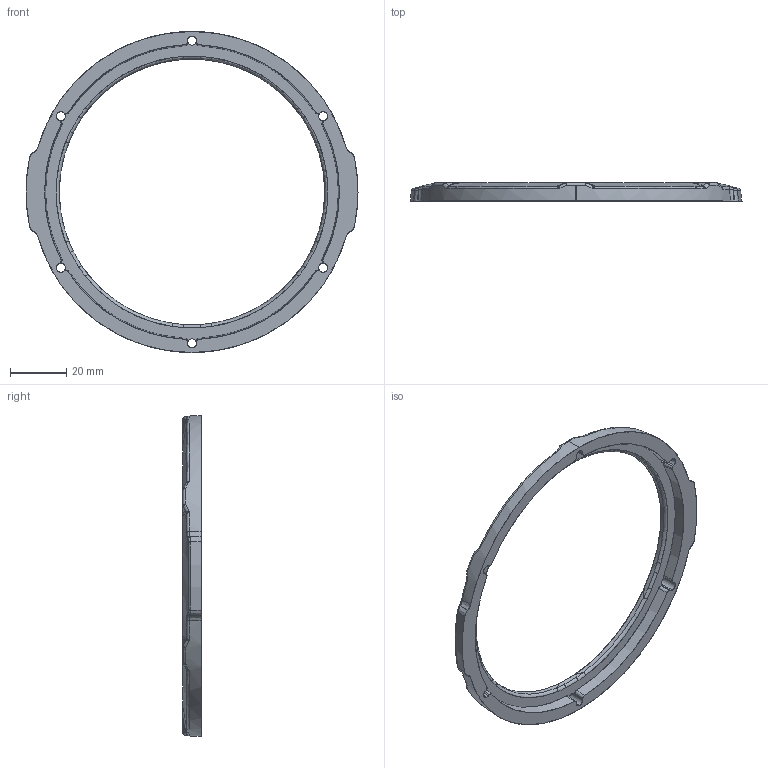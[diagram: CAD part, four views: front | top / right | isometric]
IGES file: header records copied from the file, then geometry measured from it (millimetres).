
Start section: SolidWorks IGES file using analytic representation for surfaces
Global section: file name: C:\Users\Achilles\Dropbox\BR-Engineering\PROJECTS\WTE4\MODELS\DEVELOPMENT\WTE4-P-DOME-RETAINING-RING-R1\WTE4-P-DOME-RETAINING-RING-R1.IGS; native system: SolidWorks 2016; preprocessor: SolidWorks 2016; author: Achilles; date: 181016.154620; units: millimetre
Bounding box: 118.36 x 6.5 x 114.49 mm (x, y, z)
Surface area: 10401.4 mm2 (no closed solid volume)
Topology: 0 solids, 0 shells, 300 faces, 2674 edges, 2662 vertices
Faces by surface type: bspline 246, revolution 54
